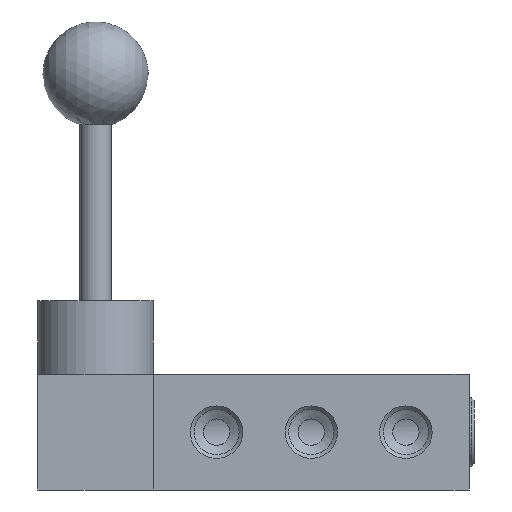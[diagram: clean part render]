
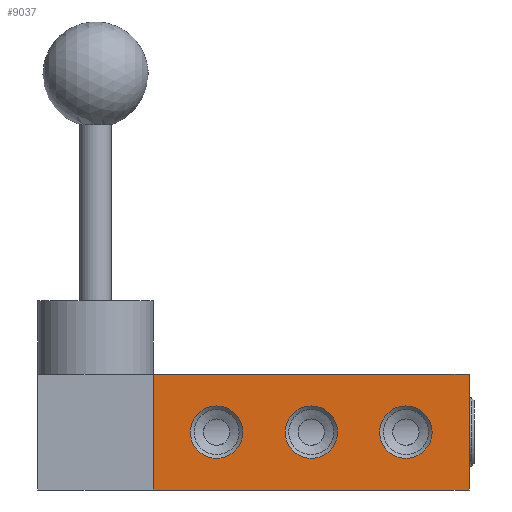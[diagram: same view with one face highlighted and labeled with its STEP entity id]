
A CAD part, front view. The second image highlights one B-rep face of the part: STEP entity #9037.
In plain terms, the highlighted planar face has unit normal (0, -1, 0).
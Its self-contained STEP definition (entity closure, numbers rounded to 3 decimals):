
#456=LINE('',#11710,#1071);
#461=LINE('',#11765,#1076);
#520=LINE('',#12203,#1135);
#521=LINE('',#12211,#1136);
#1071=VECTOR('',#10200,1000.);
#1076=VECTOR('',#10261,1000.);
#1135=VECTOR('',#10360,1000.);
#1136=VECTOR('',#10369,1000.);
#1601=PLANE('',#9512);
#2285=ORIENTED_EDGE('',*,*,#3871,.T.);
#2286=ORIENTED_EDGE('',*,*,#3872,.T.);
#2287=ORIENTED_EDGE('',*,*,#3873,.T.);
#2288=ORIENTED_EDGE('',*,*,#3757,.T.);
#2289=ORIENTED_EDGE('',*,*,#3870,.T.);
#2290=ORIENTED_EDGE('',*,*,#3874,.F.);
#2291=ORIENTED_EDGE('',*,*,#3734,.F.);
#3734=EDGE_CURVE('',#4575,#4576,#456,.T.);
#3757=EDGE_CURVE('',#4575,#4597,#461,.T.);
#3870=EDGE_CURVE('',#4597,#4708,#520,.T.);
#3871=EDGE_CURVE('',#4709,#4709,#5141,.F.);
#3872=EDGE_CURVE('',#4710,#4710,#5142,.F.);
#3873=EDGE_CURVE('',#4711,#4711,#5143,.F.);
#3874=EDGE_CURVE('',#4576,#4708,#521,.T.);
#4575=VERTEX_POINT('',#11709);
#4576=VERTEX_POINT('',#11711);
#4597=VERTEX_POINT('',#11764);
#4708=VERTEX_POINT('',#12202);
#4709=VERTEX_POINT('',#12206);
#4710=VERTEX_POINT('',#12208);
#4711=VERTEX_POINT('',#12210);
#5141=CIRCLE('',#9513,4.983);
#5142=CIRCLE('',#9514,4.983);
#5143=CIRCLE('',#9515,4.983);
#5368=EDGE_LOOP('',(#2285));
#5369=EDGE_LOOP('',(#2286));
#5370=EDGE_LOOP('',(#2287));
#5371=EDGE_LOOP('',(#2288,#2289,#2290,#2291));
#5886=FACE_BOUND('',#5368,.T.);
#5887=FACE_BOUND('',#5369,.T.);
#5888=FACE_BOUND('',#5370,.T.);
#5889=FACE_BOUND('',#5371,.T.);
#9037=ADVANCED_FACE('',(#5886,#5887,#5888,#5889),#1601,.T.);
#9512=AXIS2_PLACEMENT_3D('',#12204,#10361,#10362);
#9513=AXIS2_PLACEMENT_3D('',#12205,#10363,#10364);
#9514=AXIS2_PLACEMENT_3D('',#12207,#10365,#10366);
#9515=AXIS2_PLACEMENT_3D('',#12209,#10367,#10368);
#10200=DIRECTION('',(0.,0.,-1.));
#10261=DIRECTION('',(-1.,0.,0.));
#10360=DIRECTION('',(0.,0.,-1.));
#10361=DIRECTION('',(0.,-1.,0.));
#10362=DIRECTION('',(-1.,0.,0.));
#10363=DIRECTION('',(0.,-1.,0.));
#10364=DIRECTION('',(0.,0.,1.));
#10365=DIRECTION('',(0.,-1.,0.));
#10366=DIRECTION('',(0.,0.,1.));
#10367=DIRECTION('',(0.,-1.,0.));
#10368=DIRECTION('',(0.,0.,1.));
#10369=DIRECTION('',(-1.,0.,0.));
#11709=CARTESIAN_POINT('',(0.,-18.,11.));
#11710=CARTESIAN_POINT('',(0.,-18.,11.));
#11711=CARTESIAN_POINT('',(0.,-18.,-11.));
#11764=CARTESIAN_POINT('',(-60.,-18.,11.));
#11765=CARTESIAN_POINT('',(0.,-18.,11.));
#12202=CARTESIAN_POINT('',(-60.,-18.,-11.));
#12203=CARTESIAN_POINT('',(-60.,-18.,11.));
#12204=CARTESIAN_POINT('',(0.,-18.,11.));
#12205=CARTESIAN_POINT('',(-48.,-18.,0.));
#12206=CARTESIAN_POINT('',(-48.,-18.,4.983));
#12207=CARTESIAN_POINT('',(-30.,-18.,0.));
#12208=CARTESIAN_POINT('',(-30.,-18.,4.983));
#12209=CARTESIAN_POINT('',(-12.,-18.,0.));
#12210=CARTESIAN_POINT('',(-12.,-18.,4.983));
#12211=CARTESIAN_POINT('',(0.,-18.,-11.));
